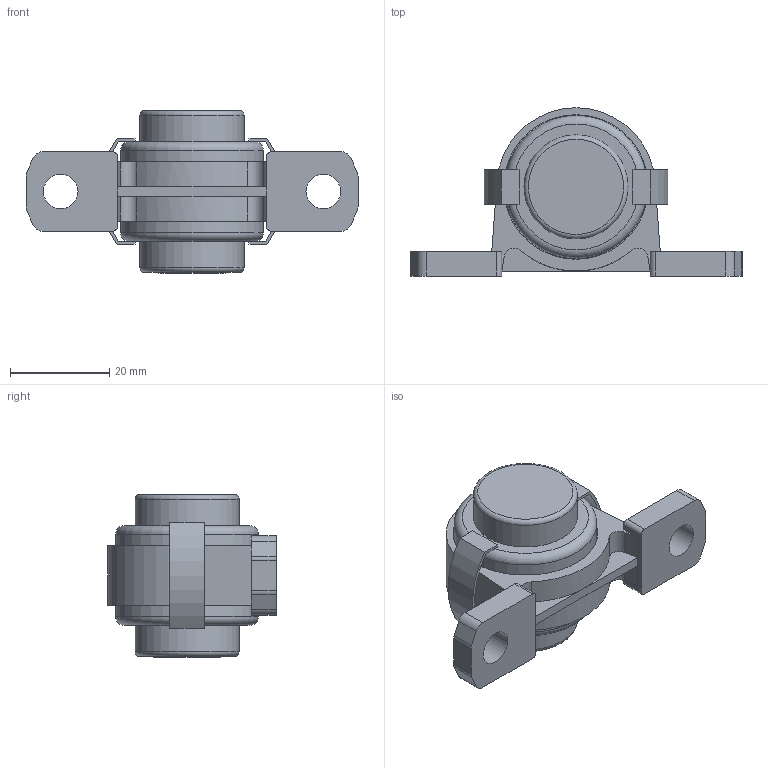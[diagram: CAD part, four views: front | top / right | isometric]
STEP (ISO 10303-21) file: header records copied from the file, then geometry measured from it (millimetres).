
FILE_DESCRIPTION((''),'2;1');
FILE_NAME('\\Ts-tgl068\j-cad-d-base\00.3DCADデータ作成フォルダ\11.エコシリーズ\MUSP000\MUSP000E.stp','2014-11-12T09:22:51',('btec_1106_2'),(''),'Autodesk Inventor 2012','Autodesk Inventor 2012','');
FILE_SCHEMA(('AUTOMOTIVE_DESIGN { 1 0 10303 214 1 1 1 1 }'));
Length unit declared in the file: millimetre
Products named in the file (6): MUSP000C; SP000; U000; 000CPE; 0CLP; 000CP10
Assembly tree (6 placements, depth 2):
  MUSP000C
    SP000
    U000
    000CPE
    0CLP  x2
    000CP10
Bounding box: 67 x 34 x 32.8 mm (x, y, z)
Volume: 12569 mm3; surface area: 14519.9 mm2
Topology: 6 solids, 6 shells, 130 faces, 301 edges, 196 vertices
Faces by surface type: plane 72, cylinder 45, torus 8, cone 3, sphere 2
Full cylindrical faces by diameter (mm): 3.5 x1, 4 x1, 7 x2, 10 x2, 13.6 x2, 14.8 x1, 17 x1, 20.4 x2, 21 x2, 28.2 x2, 28.8 x2, 29.2 x2
Entity records: 3486 total; most frequent: CARTESIAN_POINT 672, DIRECTION 590, ORIENTED_EDGE 468, EDGE_CURVE 234, AXIS2_PLACEMENT_3D 230, EDGE_LOOP 180, VERTEX_POINT 172, VECTOR 130
